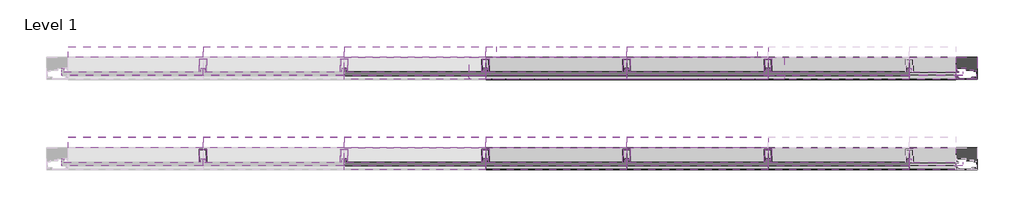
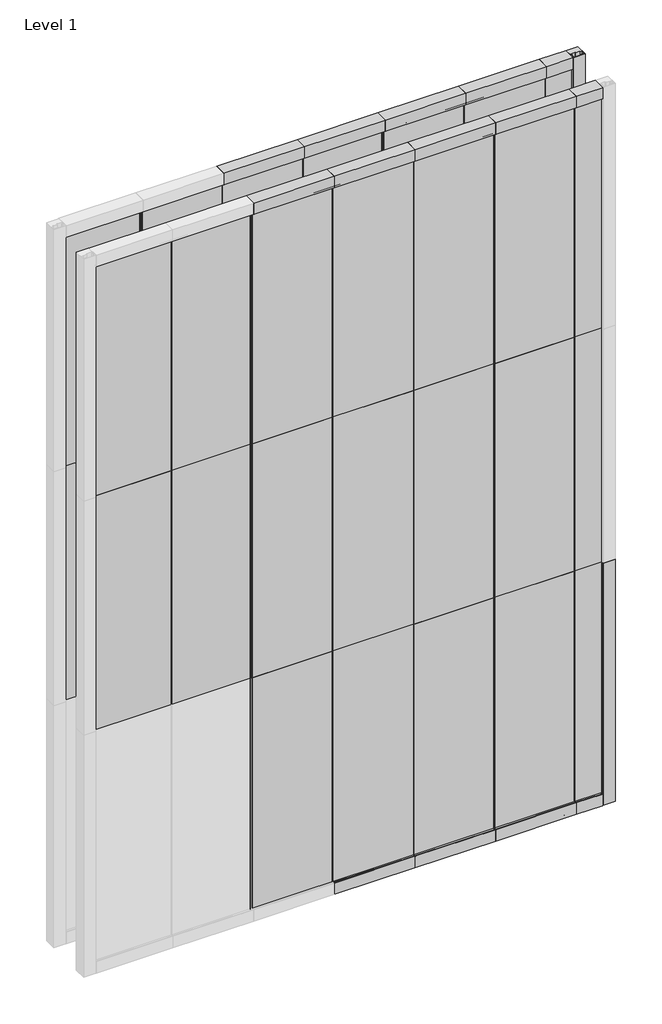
# One storey, part 2 of 3: 69 members, 37 plates.
"""IFC4 building model written with IfcOpenShell, lengths in millimetres."""

from ifc_helpers import new_model, si_unit, origin, place, context, project, spatial, transform, mapped, element, save
from components import rectangular_mullion_8ffd4793, rectangular_mullion_a341a077, rectangular_mullion_ef4c3dbc, rectangular_mullion_38807b77, rectangular_mullion_2cd8be2a, rectangular_mullion_7fd34434, rectangular_mullion_d35b6d32, rectangular_mullion_bc71cb79, rectangular_mullion_41eb730e, rectangular_mullion_794c11a0, plate_8215ef0c, plate_e771e062, plate_520ca2cf, plate_cfd131bb

model = new_model("IFC4")

# Units and contexts
model_context = context("Model", 3, world=origin())
ifc_project = project(units=[si_unit("LENGTHUNIT", "METRE", prefix="MILLI")], contexts=[model_context])

# Site, building, storey
site = spatial("IfcSite", under=ifc_project)
building = spatial("IfcBuilding", under=site)
storey = spatial("IfcBuildingStorey", under=building, Name="Level 1", Elevation=0.0)

# Members
placement = place(None, origin())
rectangular_mullion_shape = rectangular_mullion_8ffd4793(model_context)
element("IfcMember", 1, ObjectType="Rectangular Mullion : Danpal_NM_InetrnalV-Mullion", at=placement, inside=storey, context=model_context, shape_type="MappedRepresentation", body=[
    mapped(rectangular_mullion_shape, transform((2414.9454106, 2937.5512666, 81.8779002), x_axis=(1.0, 0.0, 0.0), y_axis=(0.0, -1.0, 0.0), z_axis=(0.0, 0.0, -1.0))),
])
element("IfcMember", 2, ObjectType="Rectangular Mullion : Danpal_NM_InetrnalV-Mullion", at=placement, inside=storey, context=model_context, shape_type="MappedRepresentation", body=[
    mapped(rectangular_mullion_shape, transform((2946.1454106, 2937.5512666, 81.8779002), x_axis=(1.0, 0.0, 0.0), y_axis=(0.0, -1.0, 0.0), z_axis=(0.0, 0.0, -1.0))),
])
element("IfcMember", 3, ObjectType="Rectangular Mullion : Danpal_NM_InetrnalV-Mullion", at=placement, inside=storey, context=model_context, shape_type="MappedRepresentation", body=[
    mapped(rectangular_mullion_shape, transform((3477.3454106, 2937.5512666, 81.8779002), x_axis=(1.0, 0.0, 0.0), y_axis=(0.0, -1.0, 0.0), z_axis=(0.0, 0.0, -1.0))),
])
element("IfcMember", 4, ObjectType="Rectangular Mullion : Danpal_NM_InetrnalV-Mullion", at=placement, inside=storey, context=model_context, shape_type="MappedRepresentation", body=[
    mapped(rectangular_mullion_shape, transform((4008.5454106, 2937.5512666, 81.8779002), x_axis=(1.0, 0.0, 0.0), y_axis=(0.0, -1.0, 0.0), z_axis=(0.0, 0.0, -1.0))),
])
element("IfcMember", 5, ObjectType="Rectangular Mullion : Danpal_NM_InetrnalV-Mullion", at=placement, inside=storey, context=model_context, shape_type="MappedRepresentation", body=[
    mapped(rectangular_mullion_shape, transform((2414.9454106, 2597.5512666, 81.8779002), x_axis=(1.0, 0.0, 0.0), y_axis=(0.0, -1.0, 0.0), z_axis=(0.0, 0.0, -1.0))),
])
element("IfcMember", 6, ObjectType="Rectangular Mullion : Danpal_NM_InetrnalV-Mullion", at=placement, inside=storey, context=model_context, shape_type="MappedRepresentation", body=[
    mapped(rectangular_mullion_shape, transform((2946.1454106, 2597.5512666, 81.8779002), x_axis=(1.0, 0.0, 0.0), y_axis=(0.0, -1.0, 0.0), z_axis=(0.0, 0.0, -1.0))),
])
element("IfcMember", 7, ObjectType="Rectangular Mullion : Danpal_NM_InetrnalV-Mullion", at=placement, inside=storey, context=model_context, shape_type="MappedRepresentation", body=[
    mapped(rectangular_mullion_shape, transform((3477.3454106, 2597.5512666, 81.8779002), x_axis=(1.0, 0.0, 0.0), y_axis=(0.0, -1.0, 0.0), z_axis=(0.0, 0.0, -1.0))),
])
element("IfcMember", 8, ObjectType="Rectangular Mullion : Danpal_NM_InetrnalV-Mullion", at=placement, inside=storey, context=model_context, shape_type="MappedRepresentation", body=[
    mapped(rectangular_mullion_shape, transform((4008.5454106, 2597.5512666, 81.8779002), x_axis=(1.0, 0.0, 0.0), y_axis=(0.0, -1.0, 0.0), z_axis=(0.0, 0.0, -1.0))),
])
element("IfcMember", 9, ObjectType="Rectangular Mullion : Danpal_NM_InetrnalV-Mullion", at=placement, inside=storey, context=model_context, shape_type="MappedRepresentation", body=[
    mapped(rectangular_mullion_shape, transform((1352.5454106, 2597.5512666, 81.8779002), x_axis=(1.0, 0.0, 0.0), y_axis=(0.0, -1.0, 0.0), z_axis=(0.0, 0.0, -1.0))),
])
rectangular_mullion_2_shape = rectangular_mullion_a341a077(model_context)
element("IfcMember", 10, ObjectType="Rectangular Mullion : Danpal_NM_End-Mullion_B2", at=placement, inside=storey, context=model_context, shape_type="MappedRepresentation", body=[
    mapped(rectangular_mullion_2_shape, transform((4264.2822678, 2937.5512666, 0.0), x_axis=(1.0, 0.0, 0.0), y_axis=(0.0, -1.0, 0.0), z_axis=(0.0, 0.0, -1.0))),
])
element("IfcMember", 11, ObjectType="Rectangular Mullion : Danpal_NM_End-Mullion_B2", at=placement, inside=storey, context=model_context, shape_type="MappedRepresentation", body=[
    mapped(rectangular_mullion_2_shape, transform((4264.2822678, 2597.5512666, 0.0), x_axis=(1.0, 0.0, 0.0), y_axis=(0.0, -1.0, 0.0), z_axis=(0.0, 0.0, -1.0))),
])
rectangular_mullion_3_shape = rectangular_mullion_ef4c3dbc(model_context)
element("IfcMember", 12, ObjectType="Rectangular Mullion : Danpal_NM_End-Mullion_B2", at=placement, inside=storey, context=model_context, shape_type="MappedRepresentation", body=[
    mapped(rectangular_mullion_3_shape, transform((4264.2822678, 2937.5512666, 3315.1583168), x_axis=(1.0, 0.0, 0.0), y_axis=(0.0, -1.0, 0.0), z_axis=(0.0, 0.0, -1.0))),
])
rectangular_mullion_4_shape = rectangular_mullion_38807b77(model_context)
element("IfcMember", 13, ObjectType="Rectangular Mullion : Danpal_NM_InetrnalV-Mullion", at=placement, inside=storey, context=model_context, shape_type="MappedRepresentation", body=[
    mapped(rectangular_mullion_4_shape, transform((2414.9454106, 2937.5512666, 3315.1583168), x_axis=(1.0, 0.0, 0.0), y_axis=(0.0, -1.0, 0.0), z_axis=(0.0, 0.0, -1.0))),
])
element("IfcMember", 14, ObjectType="Rectangular Mullion : Danpal_NM_InetrnalV-Mullion", at=placement, inside=storey, context=model_context, shape_type="MappedRepresentation", body=[
    mapped(rectangular_mullion_4_shape, transform((2946.1454106, 2937.5512666, 3315.1583168), x_axis=(1.0, 0.0, 0.0), y_axis=(0.0, -1.0, 0.0), z_axis=(0.0, 0.0, -1.0))),
])
element("IfcMember", 15, ObjectType="Rectangular Mullion : Danpal_NM_InetrnalV-Mullion", at=placement, inside=storey, context=model_context, shape_type="MappedRepresentation", body=[
    mapped(rectangular_mullion_4_shape, transform((3477.3454106, 2937.5512666, 3315.1583168), x_axis=(1.0, 0.0, 0.0), y_axis=(0.0, -1.0, 0.0), z_axis=(0.0, 0.0, -1.0))),
])
element("IfcMember", 16, ObjectType="Rectangular Mullion : Danpal_NM_InetrnalV-Mullion", at=placement, inside=storey, context=model_context, shape_type="MappedRepresentation", body=[
    mapped(rectangular_mullion_4_shape, transform((1883.7454106, 2937.5512666, 3315.1583168), x_axis=(1.0, 0.0, 0.0), y_axis=(0.0, -1.0, 0.0), z_axis=(0.0, 0.0, -1.0))),
])
element("IfcMember", 17, ObjectType="Rectangular Mullion : Danpal_NM_InetrnalV-Mullion", at=placement, inside=storey, context=model_context, shape_type="MappedRepresentation", body=[
    mapped(rectangular_mullion_4_shape, transform((1352.5454106, 2937.5512666, 3315.1583168), x_axis=(1.0, 0.0, 0.0), y_axis=(0.0, -1.0, 0.0), z_axis=(0.0, 0.0, -1.0))),
])
element("IfcMember", 18, ObjectType="Rectangular Mullion : Danpal_NM_InetrnalV-Mullion", at=placement, inside=storey, context=model_context, shape_type="MappedRepresentation", body=[
    mapped(rectangular_mullion_4_shape, transform((2414.9454106, 2597.5512666, 3315.1583168), x_axis=(1.0, 0.0, 0.0), y_axis=(0.0, -1.0, 0.0), z_axis=(0.0, 0.0, -1.0))),
])
element("IfcMember", 19, ObjectType="Rectangular Mullion : Danpal_NM_InetrnalV-Mullion", at=placement, inside=storey, context=model_context, shape_type="MappedRepresentation", body=[
    mapped(rectangular_mullion_4_shape, transform((2946.1454106, 2597.5512666, 3315.1583168), x_axis=(1.0, 0.0, 0.0), y_axis=(0.0, -1.0, 0.0), z_axis=(0.0, 0.0, -1.0))),
])
element("IfcMember", 20, ObjectType="Rectangular Mullion : Danpal_NM_InetrnalV-Mullion", at=placement, inside=storey, context=model_context, shape_type="MappedRepresentation", body=[
    mapped(rectangular_mullion_4_shape, transform((3477.3454106, 2597.5512666, 3315.1583168), x_axis=(1.0, 0.0, 0.0), y_axis=(0.0, -1.0, 0.0), z_axis=(0.0, 0.0, -1.0))),
])
element("IfcMember", 21, ObjectType="Rectangular Mullion : Danpal_NM_InetrnalV-Mullion", at=placement, inside=storey, context=model_context, shape_type="MappedRepresentation", body=[
    mapped(rectangular_mullion_4_shape, transform((1883.7454106, 2597.5512666, 3315.1583168), x_axis=(1.0, 0.0, 0.0), y_axis=(0.0, -1.0, 0.0), z_axis=(0.0, 0.0, -1.0))),
])
element("IfcMember", 22, ObjectType="Rectangular Mullion : Danpal_NM_InetrnalV-Mullion", at=placement, inside=storey, context=model_context, shape_type="MappedRepresentation", body=[
    mapped(rectangular_mullion_4_shape, transform((1352.5454106, 2597.5512666, 3315.1583168), x_axis=(1.0, 0.0, 0.0), y_axis=(0.0, -1.0, 0.0), z_axis=(0.0, 0.0, -1.0))),
])
rectangular_mullion_5_shape = rectangular_mullion_2cd8be2a(model_context)
element("IfcMember", 23, ObjectType="Rectangular Mullion : Danpal_NM_InetrnalV-Mullion", at=placement, inside=storey, context=model_context, shape_type="MappedRepresentation", body=[
    mapped(rectangular_mullion_5_shape, transform((4008.5454106, 2937.5512666, 1686.1107298), x_axis=(1.0, 0.0, 0.0), y_axis=(0.0, -1.0, 0.0), z_axis=(0.0, 0.0, -1.0))),
])
element("IfcMember", 24, ObjectType="Rectangular Mullion : Danpal_NM_InetrnalV-Mullion", at=placement, inside=storey, context=model_context, shape_type="MappedRepresentation", body=[
    mapped(rectangular_mullion_5_shape, transform((1883.7454106, 2937.5512666, 1686.1107298), x_axis=(1.0, 0.0, 0.0), y_axis=(0.0, -1.0, 0.0), z_axis=(0.0, 0.0, -1.0))),
])
element("IfcMember", 25, ObjectType="Rectangular Mullion : Danpal_NM_InetrnalV-Mullion", at=placement, inside=storey, context=model_context, shape_type="MappedRepresentation", body=[
    mapped(rectangular_mullion_5_shape, transform((1352.5454106, 2937.5512666, 1686.1107298), x_axis=(1.0, 0.0, 0.0), y_axis=(0.0, -1.0, 0.0), z_axis=(0.0, 0.0, -1.0))),
])
element("IfcMember", 26, ObjectType="Rectangular Mullion : Danpal_NM_InetrnalV-Mullion", at=placement, inside=storey, context=model_context, shape_type="MappedRepresentation", body=[
    mapped(rectangular_mullion_5_shape, transform((2414.9454106, 2597.5512666, 1686.1107298), x_axis=(1.0, 0.0, 0.0), y_axis=(0.0, -1.0, 0.0), z_axis=(0.0, 0.0, -1.0))),
])
element("IfcMember", 27, ObjectType="Rectangular Mullion : Danpal_NM_InetrnalV-Mullion", at=placement, inside=storey, context=model_context, shape_type="MappedRepresentation", body=[
    mapped(rectangular_mullion_5_shape, transform((2946.1454106, 2597.5512666, 1686.1107298), x_axis=(1.0, 0.0, 0.0), y_axis=(0.0, -1.0, 0.0), z_axis=(0.0, 0.0, -1.0))),
])
element("IfcMember", 28, ObjectType="Rectangular Mullion : Danpal_NM_InetrnalV-Mullion", at=placement, inside=storey, context=model_context, shape_type="MappedRepresentation", body=[
    mapped(rectangular_mullion_5_shape, transform((3477.3454106, 2597.5512666, 1686.1107298), x_axis=(1.0, 0.0, 0.0), y_axis=(0.0, -1.0, 0.0), z_axis=(0.0, 0.0, -1.0))),
])
element("IfcMember", 29, ObjectType="Rectangular Mullion : Danpal_NM_InetrnalV-Mullion", at=placement, inside=storey, context=model_context, shape_type="MappedRepresentation", body=[
    mapped(rectangular_mullion_5_shape, transform((1883.7454106, 2597.5512666, 1686.1107298), x_axis=(1.0, 0.0, 0.0), y_axis=(0.0, -1.0, 0.0), z_axis=(0.0, 0.0, -1.0))),
])
element("IfcMember", 30, ObjectType="Rectangular Mullion : Danpal_NM_InetrnalV-Mullion", at=placement, inside=storey, context=model_context, shape_type="MappedRepresentation", body=[
    mapped(rectangular_mullion_5_shape, transform((1352.5454106, 2597.5512666, 1686.1107298), x_axis=(1.0, 0.0, 0.0), y_axis=(0.0, -1.0, 0.0), z_axis=(0.0, 0.0, -1.0))),
])
rectangular_mullion_6_shape = rectangular_mullion_7fd34434(model_context)
element("IfcMember", 31, ObjectType="Rectangular Mullion : Danpal_NM_End-Mullion_B2", at=placement, inside=storey, context=model_context, shape_type="MappedRepresentation", body=[
    mapped(rectangular_mullion_6_shape, transform((4264.2822678, 2937.5512666, 1686.1107298), x_axis=(1.0, 0.0, 0.0), y_axis=(0.0, -1.0, 0.0), z_axis=(0.0, 0.0, -1.0))),
])
rectangular_mullion_7_shape = rectangular_mullion_d35b6d32(model_context)
element("IfcMember", 32, ObjectType="Rectangular Mullion : Danpal_NM_End-Mullion_B2", at=placement, inside=storey, context=model_context, shape_type="MappedRepresentation", body=[
    mapped(rectangular_mullion_7_shape, transform((2414.9454106, 2937.5512666, 5000.0), x_axis=(0.0, 0.0, 1.0), y_axis=(0.0, -1.0, 0.0), z_axis=(1.0, 0.0, 0.0))),
])
element("IfcMember", 33, ObjectType="Rectangular Mullion : Danpal_NM_End-Mullion_B2", at=placement, inside=storey, context=model_context, shape_type="MappedRepresentation", body=[
    mapped(rectangular_mullion_7_shape, transform((2946.1454106, 2937.5512666, 5000.0), x_axis=(0.0, 0.0, 1.0), y_axis=(0.0, -1.0, 0.0), z_axis=(1.0, 0.0, 0.0))),
])
element("IfcMember", 34, ObjectType="Rectangular Mullion : Danpal_NM_End-Mullion_B2", at=placement, inside=storey, context=model_context, shape_type="MappedRepresentation", body=[
    mapped(rectangular_mullion_7_shape, transform((3477.3454106, 2937.5512666, 5000.0), x_axis=(0.0, 0.0, 1.0), y_axis=(0.0, -1.0, 0.0), z_axis=(1.0, 0.0, 0.0))),
])
element("IfcMember", 35, ObjectType="Rectangular Mullion : Danpal_NM_End-Mullion_B2", at=placement, inside=storey, context=model_context, shape_type="MappedRepresentation", body=[
    mapped(rectangular_mullion_7_shape, transform((4008.5454106, 2937.5512666, 5000.0), x_axis=(0.0, 0.0, 1.0), y_axis=(0.0, -1.0, 0.0), z_axis=(1.0, 0.0, 0.0))),
])
element("IfcMember", 36, ObjectType="Rectangular Mullion : Danpal_NM_End-Mullion_B2", at=placement, inside=storey, context=model_context, shape_type="MappedRepresentation", body=[
    mapped(rectangular_mullion_7_shape, transform((2414.9454106, 2597.5512666, 5000.0), x_axis=(0.0, 0.0, 1.0), y_axis=(0.0, -1.0, 0.0), z_axis=(1.0, 0.0, 0.0))),
])
element("IfcMember", 37, ObjectType="Rectangular Mullion : Danpal_NM_End-Mullion_B2", at=placement, inside=storey, context=model_context, shape_type="MappedRepresentation", body=[
    mapped(rectangular_mullion_7_shape, transform((2946.1454106, 2597.5512666, 5000.0), x_axis=(0.0, 0.0, 1.0), y_axis=(0.0, -1.0, 0.0), z_axis=(1.0, 0.0, 0.0))),
])
element("IfcMember", 38, ObjectType="Rectangular Mullion : Danpal_NM_End-Mullion_B2", at=placement, inside=storey, context=model_context, shape_type="MappedRepresentation", body=[
    mapped(rectangular_mullion_7_shape, transform((3477.3454106, 2597.5512666, 5000.0), x_axis=(0.0, 0.0, 1.0), y_axis=(0.0, -1.0, 0.0), z_axis=(1.0, 0.0, 0.0))),
])
element("IfcMember", 39, ObjectType="Rectangular Mullion : Danpal_NM_End-Mullion_B2", at=placement, inside=storey, context=model_context, shape_type="MappedRepresentation", body=[
    mapped(rectangular_mullion_7_shape, transform((4008.5454106, 2597.5512666, 5000.0), x_axis=(0.0, 0.0, 1.0), y_axis=(0.0, -1.0, 0.0), z_axis=(1.0, 0.0, 0.0))),
])
element("IfcMember", 40, ObjectType="Rectangular Mullion : Danpal_NM_End-Mullion_B1", at=placement, inside=storey, context=model_context, shape_type="MappedRepresentation", body=[
    mapped(rectangular_mullion_7_shape, transform((2414.9454106, 2937.5512666, 0.0), x_axis=(0.0, 0.0, -1.0), y_axis=(0.0, -1.0, 0.0), z_axis=(-1.0, 0.0, 0.0))),
])
element("IfcMember", 41, ObjectType="Rectangular Mullion : Danpal_NM_End-Mullion_B1", at=placement, inside=storey, context=model_context, shape_type="MappedRepresentation", body=[
    mapped(rectangular_mullion_7_shape, transform((2946.1454106, 2937.5512666, 0.0), x_axis=(0.0, 0.0, -1.0), y_axis=(0.0, -1.0, 0.0), z_axis=(-1.0, 0.0, 0.0))),
])
element("IfcMember", 42, ObjectType="Rectangular Mullion : Danpal_NM_End-Mullion_B1", at=placement, inside=storey, context=model_context, shape_type="MappedRepresentation", body=[
    mapped(rectangular_mullion_7_shape, transform((3477.3454106, 2937.5512666, 0.0), x_axis=(0.0, 0.0, -1.0), y_axis=(0.0, -1.0, 0.0), z_axis=(-1.0, 0.0, 0.0))),
])
element("IfcMember", 43, ObjectType="Rectangular Mullion : Danpal_NM_End-Mullion_B1", at=placement, inside=storey, context=model_context, shape_type="MappedRepresentation", body=[
    mapped(rectangular_mullion_7_shape, transform((2414.9454106, 2597.5512666, 0.0), x_axis=(0.0, 0.0, -1.0), y_axis=(0.0, -1.0, 0.0), z_axis=(-1.0, 0.0, 0.0))),
])
element("IfcMember", 44, ObjectType="Rectangular Mullion : Danpal_NM_End-Mullion_B1", at=placement, inside=storey, context=model_context, shape_type="MappedRepresentation", body=[
    mapped(rectangular_mullion_7_shape, transform((2946.1454106, 2597.5512666, 0.0), x_axis=(0.0, 0.0, -1.0), y_axis=(0.0, -1.0, 0.0), z_axis=(-1.0, 0.0, 0.0))),
])
element("IfcMember", 45, ObjectType="Rectangular Mullion : Danpal_NM_End-Mullion_B1", at=placement, inside=storey, context=model_context, shape_type="MappedRepresentation", body=[
    mapped(rectangular_mullion_7_shape, transform((3477.3454106, 2597.5512666, 0.0), x_axis=(0.0, 0.0, -1.0), y_axis=(0.0, -1.0, 0.0), z_axis=(-1.0, 0.0, 0.0))),
])
rectangular_mullion_8_shape = rectangular_mullion_bc71cb79(model_context)
element("IfcMember", 46, ObjectType="Rectangular Mullion : Danpal_NM_End-Mullion_B2", at=placement, inside=storey, context=model_context, shape_type="MappedRepresentation", body=[
    mapped(rectangular_mullion_8_shape, transform((4182.4043676, 2597.5512666, 5000.0), x_axis=(0.0, 0.0, 1.0), y_axis=(0.0, -1.0, 0.0), z_axis=(1.0, 0.0, 0.0))),
])
element("IfcMember", 47, ObjectType="Rectangular Mullion : Danpal_NM_End-Mullion_B2", at=placement, inside=storey, context=model_context, shape_type="MappedRepresentation", body=[
    mapped(rectangular_mullion_8_shape, transform((4182.4043676, 2937.5512666, 5000.0), x_axis=(0.0, 0.0, 1.0), y_axis=(0.0, -1.0, 0.0), z_axis=(1.0, 0.0, 0.0))),
])
element("IfcMember", 48, ObjectType="Rectangular Mullion : Danpal_NM_End-Mullion_B1", at=placement, inside=storey, context=model_context, shape_type="MappedRepresentation", body=[
    mapped(rectangular_mullion_8_shape, transform((4008.5454106, 2597.5512666, 0.0), x_axis=(0.0, 0.0, -1.0), y_axis=(0.0, -1.0, 0.0), z_axis=(-1.0, 0.0, 0.0))),
])
element("IfcMember", 49, ObjectType="Rectangular Mullion : Danpal_NM_End-Mullion_B1", at=placement, inside=storey, context=model_context, shape_type="MappedRepresentation", body=[
    mapped(rectangular_mullion_8_shape, transform((4008.5454106, 2937.5512666, 0.0), x_axis=(0.0, 0.0, -1.0), y_axis=(0.0, -1.0, 0.0), z_axis=(-1.0, 0.0, 0.0))),
])
rectangular_mullion_9_shape = rectangular_mullion_41eb730e(model_context)
element("IfcMember", 50, ObjectType="Rectangular Mullion : Danpal_NM_MiddleH-Mullion", at=placement, inside=storey, context=model_context, shape_type="MappedRepresentation", body=[
    mapped(rectangular_mullion_9_shape, transform((1883.7454106, 2937.5512666, 1686.1107298), x_axis=(0.0, 0.0, 1.0), y_axis=(0.0, -1.0, 0.0), z_axis=(1.0, 0.0, 0.0))),
])
element("IfcMember", 51, ObjectType="Rectangular Mullion : Danpal_NM_MiddleH-Mullion", at=placement, inside=storey, context=model_context, shape_type="MappedRepresentation", body=[
    mapped(rectangular_mullion_9_shape, transform((2414.9454106, 2937.5512666, 1686.1107298), x_axis=(0.0, 0.0, 1.0), y_axis=(0.0, -1.0, 0.0), z_axis=(1.0, 0.0, 0.0))),
])
element("IfcMember", 52, ObjectType="Rectangular Mullion : Danpal_NM_MiddleH-Mullion", at=placement, inside=storey, context=model_context, shape_type="MappedRepresentation", body=[
    mapped(rectangular_mullion_9_shape, transform((2946.1454106, 2937.5512666, 1686.1107298), x_axis=(0.0, 0.0, 1.0), y_axis=(0.0, -1.0, 0.0), z_axis=(1.0, 0.0, 0.0))),
])
element("IfcMember", 53, ObjectType="Rectangular Mullion : Danpal_NM_MiddleH-Mullion", at=placement, inside=storey, context=model_context, shape_type="MappedRepresentation", body=[
    mapped(rectangular_mullion_9_shape, transform((3477.3454106, 2937.5512666, 1686.1107298), x_axis=(0.0, 0.0, 1.0), y_axis=(0.0, -1.0, 0.0), z_axis=(1.0, 0.0, 0.0))),
])
element("IfcMember", 54, ObjectType="Rectangular Mullion : Danpal_NM_MiddleH-Mullion", at=placement, inside=storey, context=model_context, shape_type="MappedRepresentation", body=[
    mapped(rectangular_mullion_9_shape, transform((1883.7454106, 2937.5512666, 3315.1583168), x_axis=(0.0, 0.0, 1.0), y_axis=(0.0, -1.0, 0.0), z_axis=(1.0, 0.0, 0.0))),
])
element("IfcMember", 55, ObjectType="Rectangular Mullion : Danpal_NM_MiddleH-Mullion", at=placement, inside=storey, context=model_context, shape_type="MappedRepresentation", body=[
    mapped(rectangular_mullion_9_shape, transform((2414.9454106, 2937.5512666, 3315.1583168), x_axis=(0.0, 0.0, 1.0), y_axis=(0.0, -1.0, 0.0), z_axis=(1.0, 0.0, 0.0))),
])
element("IfcMember", 56, ObjectType="Rectangular Mullion : Danpal_NM_MiddleH-Mullion", at=placement, inside=storey, context=model_context, shape_type="MappedRepresentation", body=[
    mapped(rectangular_mullion_9_shape, transform((2946.1454106, 2937.5512666, 3315.1583168), x_axis=(0.0, 0.0, 1.0), y_axis=(0.0, -1.0, 0.0), z_axis=(1.0, 0.0, 0.0))),
])
element("IfcMember", 57, ObjectType="Rectangular Mullion : Danpal_NM_MiddleH-Mullion", at=placement, inside=storey, context=model_context, shape_type="MappedRepresentation", body=[
    mapped(rectangular_mullion_9_shape, transform((3477.3454106, 2937.5512666, 3315.1583168), x_axis=(0.0, 0.0, 1.0), y_axis=(0.0, -1.0, 0.0), z_axis=(1.0, 0.0, 0.0))),
])
element("IfcMember", 58, ObjectType="Rectangular Mullion : Danpal_NM_MiddleH-Mullion", at=placement, inside=storey, context=model_context, shape_type="MappedRepresentation", body=[
    mapped(rectangular_mullion_9_shape, transform((1883.7454106, 2597.5512666, 1686.1107298), x_axis=(0.0, 0.0, 1.0), y_axis=(0.0, -1.0, 0.0), z_axis=(1.0, 0.0, 0.0))),
])
element("IfcMember", 59, ObjectType="Rectangular Mullion : Danpal_NM_MiddleH-Mullion", at=placement, inside=storey, context=model_context, shape_type="MappedRepresentation", body=[
    mapped(rectangular_mullion_9_shape, transform((2414.9454106, 2597.5512666, 1686.1107298), x_axis=(0.0, 0.0, 1.0), y_axis=(0.0, -1.0, 0.0), z_axis=(1.0, 0.0, 0.0))),
])
element("IfcMember", 60, ObjectType="Rectangular Mullion : Danpal_NM_MiddleH-Mullion", at=placement, inside=storey, context=model_context, shape_type="MappedRepresentation", body=[
    mapped(rectangular_mullion_9_shape, transform((2946.1454106, 2597.5512666, 1686.1107298), x_axis=(0.0, 0.0, 1.0), y_axis=(0.0, -1.0, 0.0), z_axis=(1.0, 0.0, 0.0))),
])
element("IfcMember", 61, ObjectType="Rectangular Mullion : Danpal_NM_MiddleH-Mullion", at=placement, inside=storey, context=model_context, shape_type="MappedRepresentation", body=[
    mapped(rectangular_mullion_9_shape, transform((3477.3454106, 2597.5512666, 1686.1107298), x_axis=(0.0, 0.0, 1.0), y_axis=(0.0, -1.0, 0.0), z_axis=(1.0, 0.0, 0.0))),
])
element("IfcMember", 62, ObjectType="Rectangular Mullion : Danpal_NM_MiddleH-Mullion", at=placement, inside=storey, context=model_context, shape_type="MappedRepresentation", body=[
    mapped(rectangular_mullion_9_shape, transform((1883.7454106, 2597.5512666, 3315.1583168), x_axis=(0.0, 0.0, 1.0), y_axis=(0.0, -1.0, 0.0), z_axis=(1.0, 0.0, 0.0))),
])
element("IfcMember", 63, ObjectType="Rectangular Mullion : Danpal_NM_MiddleH-Mullion", at=placement, inside=storey, context=model_context, shape_type="MappedRepresentation", body=[
    mapped(rectangular_mullion_9_shape, transform((2414.9454106, 2597.5512666, 3315.1583168), x_axis=(0.0, 0.0, 1.0), y_axis=(0.0, -1.0, 0.0), z_axis=(1.0, 0.0, 0.0))),
])
element("IfcMember", 64, ObjectType="Rectangular Mullion : Danpal_NM_MiddleH-Mullion", at=placement, inside=storey, context=model_context, shape_type="MappedRepresentation", body=[
    mapped(rectangular_mullion_9_shape, transform((2946.1454106, 2597.5512666, 3315.1583168), x_axis=(0.0, 0.0, 1.0), y_axis=(0.0, -1.0, 0.0), z_axis=(1.0, 0.0, 0.0))),
])
element("IfcMember", 65, ObjectType="Rectangular Mullion : Danpal_NM_MiddleH-Mullion", at=placement, inside=storey, context=model_context, shape_type="MappedRepresentation", body=[
    mapped(rectangular_mullion_9_shape, transform((3477.3454106, 2597.5512666, 3315.1583168), x_axis=(0.0, 0.0, 1.0), y_axis=(0.0, -1.0, 0.0), z_axis=(1.0, 0.0, 0.0))),
])
rectangular_mullion_10_shape = rectangular_mullion_794c11a0(model_context)
element("IfcMember", 66, ObjectType="Rectangular Mullion : Danpal_NM_MiddleH-Mullion", at=placement, inside=storey, context=model_context, shape_type="MappedRepresentation", body=[
    mapped(rectangular_mullion_10_shape, transform((1352.5454106, 2937.5512666, 1686.1107298), x_axis=(0.0, 0.0, 1.0), y_axis=(0.0, -1.0, 0.0), z_axis=(1.0, 0.0, 0.0))),
])
element("IfcMember", 67, ObjectType="Rectangular Mullion : Danpal_NM_MiddleH-Mullion", at=placement, inside=storey, context=model_context, shape_type="MappedRepresentation", body=[
    mapped(rectangular_mullion_10_shape, transform((1352.5454106, 2937.5512666, 3315.1583168), x_axis=(0.0, 0.0, 1.0), y_axis=(0.0, -1.0, 0.0), z_axis=(1.0, 0.0, 0.0))),
])
element("IfcMember", 68, ObjectType="Rectangular Mullion : Danpal_NM_MiddleH-Mullion", at=placement, inside=storey, context=model_context, shape_type="MappedRepresentation", body=[
    mapped(rectangular_mullion_10_shape, transform((1352.5454106, 2597.5512666, 1686.1107298), x_axis=(0.0, 0.0, 1.0), y_axis=(0.0, -1.0, 0.0), z_axis=(1.0, 0.0, 0.0))),
])
element("IfcMember", 69, ObjectType="Rectangular Mullion : Danpal_NM_MiddleH-Mullion", at=placement, inside=storey, context=model_context, shape_type="MappedRepresentation", body=[
    mapped(rectangular_mullion_10_shape, transform((1352.5454106, 2597.5512666, 3315.1583168), x_axis=(0.0, 0.0, 1.0), y_axis=(0.0, -1.0, 0.0), z_axis=(1.0, 0.0, 0.0))),
])

# Plates
plate_shape = plate_8215ef0c(model_context)
element("IfcPlate", 70, ObjectType="Walls_Curtain-Walls_Danpal_NM : Walls_Curtain-Walls_Danpal_NM", at=placement, inside=storey, context=model_context, shape_type="MappedRepresentation", body=[
    mapped(plate_shape, transform((2680.5454106, 2597.5512666, 57.0631428), x_axis=(1.0, 0.0, 0.0), y_axis=(0.0, 1.0, 0.0), z_axis=(0.0, 0.0, 1.0))),
])
element("IfcPlate", 71, ObjectType="Walls_Curtain-Walls_Danpal_NM : Walls_Curtain-Walls_Danpal_NM", at=placement, inside=storey, context=model_context, shape_type="MappedRepresentation", body=[
    mapped(plate_shape, transform((3211.7454106, 2597.5512666, 57.0631428), x_axis=(1.0, 0.0, 0.0), y_axis=(0.0, 1.0, 0.0), z_axis=(0.0, 0.0, 1.0))),
])
element("IfcPlate", 72, ObjectType="Walls_Curtain-Walls_Danpal_NM : Walls_Curtain-Walls_Danpal_NM", at=placement, inside=storey, context=model_context, shape_type="MappedRepresentation", body=[
    mapped(plate_shape, transform((3742.9454106, 2597.5512666, 57.0631428), x_axis=(1.0, 0.0, 0.0), y_axis=(0.0, 1.0, 0.0), z_axis=(0.0, 0.0, 1.0))),
])
element("IfcPlate", 73, ObjectType="Walls_Curtain-Walls_Danpal_NM : Walls_Curtain-Walls_Danpal_NM", at=placement, inside=storey, context=model_context, shape_type="MappedRepresentation", body=[
    mapped(plate_shape, transform((2149.3454106, 2937.5512666, 57.0631428), x_axis=(1.0, 0.0, 0.0), y_axis=(0.0, 1.0, 0.0), z_axis=(0.0, 0.0, 1.0))),
])
element("IfcPlate", 74, ObjectType="Walls_Curtain-Walls_Danpal_NM : Walls_Curtain-Walls_Danpal_NM", at=placement, inside=storey, context=model_context, shape_type="MappedRepresentation", body=[
    mapped(plate_shape, transform((2149.3454106, 2597.5512666, 57.0631428), x_axis=(1.0, 0.0, 0.0), y_axis=(0.0, 1.0, 0.0), z_axis=(0.0, 0.0, 1.0))),
])
element("IfcPlate", 75, ObjectType="Walls_Curtain-Walls_Danpal_NM : Walls_Curtain-Walls_Danpal_NM", at=placement, inside=storey, context=model_context, shape_type="MappedRepresentation", body=[
    mapped(plate_shape, transform((3742.9454106, 2937.5512666, 57.0631428), x_axis=(1.0, 0.0, 0.0), y_axis=(0.0, 1.0, 0.0), z_axis=(0.0, 0.0, 1.0))),
])
element("IfcPlate", 76, ObjectType="Walls_Curtain-Walls_Danpal_NM : Walls_Curtain-Walls_Danpal_NM", at=placement, inside=storey, context=model_context, shape_type="MappedRepresentation", body=[
    mapped(plate_shape, transform((1086.9454106, 2937.5512666, 1686.1107298), x_axis=(1.0, 0.0, 0.0), y_axis=(0.0, 1.0, 0.0), z_axis=(0.0, 0.0, 1.0))),
])
element("IfcPlate", 77, ObjectType="Walls_Curtain-Walls_Danpal_NM : Walls_Curtain-Walls_Danpal_NM", at=placement, inside=storey, context=model_context, shape_type="MappedRepresentation", body=[
    mapped(plate_shape, transform((1618.1454106, 2937.5512666, 1686.1107298), x_axis=(1.0, 0.0, 0.0), y_axis=(0.0, 1.0, 0.0), z_axis=(0.0, 0.0, 1.0))),
])
element("IfcPlate", 78, ObjectType="Walls_Curtain-Walls_Danpal_NM : Walls_Curtain-Walls_Danpal_NM", at=placement, inside=storey, context=model_context, shape_type="MappedRepresentation", body=[
    mapped(plate_shape, transform((2149.3454106, 2937.5512666, 1686.1107298), x_axis=(1.0, 0.0, 0.0), y_axis=(0.0, 1.0, 0.0), z_axis=(0.0, 0.0, 1.0))),
])
element("IfcPlate", 79, ObjectType="Walls_Curtain-Walls_Danpal_NM : Walls_Curtain-Walls_Danpal_NM", at=placement, inside=storey, context=model_context, shape_type="MappedRepresentation", body=[
    mapped(plate_shape, transform((3742.9454106, 2937.5512666, 1686.1107298), x_axis=(1.0, 0.0, 0.0), y_axis=(0.0, 1.0, 0.0), z_axis=(0.0, 0.0, 1.0))),
])
element("IfcPlate", 80, ObjectType="Walls_Curtain-Walls_Danpal_NM : Walls_Curtain-Walls_Danpal_NM", at=placement, inside=storey, context=model_context, shape_type="MappedRepresentation", body=[
    mapped(plate_shape, transform((1086.9454106, 2937.5512666, 3315.1583168), x_axis=(1.0, 0.0, 0.0), y_axis=(0.0, 1.0, 0.0), z_axis=(0.0, 0.0, 1.0))),
])
element("IfcPlate", 81, ObjectType="Walls_Curtain-Walls_Danpal_NM : Walls_Curtain-Walls_Danpal_NM", at=placement, inside=storey, context=model_context, shape_type="MappedRepresentation", body=[
    mapped(plate_shape, transform((1618.1454106, 2937.5512666, 3315.1583168), x_axis=(1.0, 0.0, 0.0), y_axis=(0.0, 1.0, 0.0), z_axis=(0.0, 0.0, 1.0))),
])
element("IfcPlate", 82, ObjectType="Walls_Curtain-Walls_Danpal_NM : Walls_Curtain-Walls_Danpal_NM", at=placement, inside=storey, context=model_context, shape_type="MappedRepresentation", body=[
    mapped(plate_shape, transform((2149.3454106, 2937.5512666, 3315.1583168), x_axis=(1.0, 0.0, 0.0), y_axis=(0.0, 1.0, 0.0), z_axis=(0.0, 0.0, 1.0))),
])
element("IfcPlate", 83, ObjectType="Walls_Curtain-Walls_Danpal_NM : Walls_Curtain-Walls_Danpal_NM", at=placement, inside=storey, context=model_context, shape_type="MappedRepresentation", body=[
    mapped(plate_shape, transform((2680.5454106, 2937.5512666, 3315.1583168), x_axis=(1.0, 0.0, 0.0), y_axis=(0.0, 1.0, 0.0), z_axis=(0.0, 0.0, 1.0))),
])
element("IfcPlate", 84, ObjectType="Walls_Curtain-Walls_Danpal_NM : Walls_Curtain-Walls_Danpal_NM", at=placement, inside=storey, context=model_context, shape_type="MappedRepresentation", body=[
    mapped(plate_shape, transform((3211.7454106, 2937.5512666, 3315.1583168), x_axis=(1.0, 0.0, 0.0), y_axis=(0.0, 1.0, 0.0), z_axis=(0.0, 0.0, 1.0))),
])
element("IfcPlate", 85, ObjectType="Walls_Curtain-Walls_Danpal_NM : Walls_Curtain-Walls_Danpal_NM", at=placement, inside=storey, context=model_context, shape_type="MappedRepresentation", body=[
    mapped(plate_shape, transform((3742.9454106, 2937.5512666, 3315.1583168), x_axis=(1.0, 0.0, 0.0), y_axis=(0.0, 1.0, 0.0), z_axis=(0.0, 0.0, 1.0))),
])
element("IfcPlate", 86, ObjectType="Walls_Curtain-Walls_Danpal_NM : Walls_Curtain-Walls_Danpal_NM", at=placement, inside=storey, context=model_context, shape_type="MappedRepresentation", body=[
    mapped(plate_shape, transform((1086.9454106, 2597.5512666, 1686.1107298), x_axis=(1.0, 0.0, 0.0), y_axis=(0.0, 1.0, 0.0), z_axis=(0.0, 0.0, 1.0))),
])
element("IfcPlate", 87, ObjectType="Walls_Curtain-Walls_Danpal_NM : Walls_Curtain-Walls_Danpal_NM", at=placement, inside=storey, context=model_context, shape_type="MappedRepresentation", body=[
    mapped(plate_shape, transform((1618.1454106, 2597.5512666, 1686.1107298), x_axis=(1.0, 0.0, 0.0), y_axis=(0.0, 1.0, 0.0), z_axis=(0.0, 0.0, 1.0))),
])
element("IfcPlate", 88, ObjectType="Walls_Curtain-Walls_Danpal_NM : Walls_Curtain-Walls_Danpal_NM", at=placement, inside=storey, context=model_context, shape_type="MappedRepresentation", body=[
    mapped(plate_shape, transform((2149.3454106, 2597.5512666, 1686.1107298), x_axis=(1.0, 0.0, 0.0), y_axis=(0.0, 1.0, 0.0), z_axis=(0.0, 0.0, 1.0))),
])
element("IfcPlate", 89, ObjectType="Walls_Curtain-Walls_Danpal_NM : Walls_Curtain-Walls_Danpal_NM", at=placement, inside=storey, context=model_context, shape_type="MappedRepresentation", body=[
    mapped(plate_shape, transform((2680.5454106, 2597.5512666, 1686.1107298), x_axis=(1.0, 0.0, 0.0), y_axis=(0.0, 1.0, 0.0), z_axis=(0.0, 0.0, 1.0))),
])
element("IfcPlate", 90, ObjectType="Walls_Curtain-Walls_Danpal_NM : Walls_Curtain-Walls_Danpal_NM", at=placement, inside=storey, context=model_context, shape_type="MappedRepresentation", body=[
    mapped(plate_shape, transform((3211.7454106, 2597.5512666, 1686.1107298), x_axis=(1.0, 0.0, 0.0), y_axis=(0.0, 1.0, 0.0), z_axis=(0.0, 0.0, 1.0))),
])
element("IfcPlate", 91, ObjectType="Walls_Curtain-Walls_Danpal_NM : Walls_Curtain-Walls_Danpal_NM", at=placement, inside=storey, context=model_context, shape_type="MappedRepresentation", body=[
    mapped(plate_shape, transform((3742.9454106, 2597.5512666, 1686.1107298), x_axis=(1.0, 0.0, 0.0), y_axis=(0.0, 1.0, 0.0), z_axis=(0.0, 0.0, 1.0))),
])
element("IfcPlate", 92, ObjectType="Walls_Curtain-Walls_Danpal_NM : Walls_Curtain-Walls_Danpal_NM", at=placement, inside=storey, context=model_context, shape_type="MappedRepresentation", body=[
    mapped(plate_shape, transform((1086.9454106, 2597.5512666, 3315.1583168), x_axis=(1.0, 0.0, 0.0), y_axis=(0.0, 1.0, 0.0), z_axis=(0.0, 0.0, 1.0))),
])
element("IfcPlate", 93, ObjectType="Walls_Curtain-Walls_Danpal_NM : Walls_Curtain-Walls_Danpal_NM", at=placement, inside=storey, context=model_context, shape_type="MappedRepresentation", body=[
    mapped(plate_shape, transform((1618.1454106, 2597.5512666, 3315.1583168), x_axis=(1.0, 0.0, 0.0), y_axis=(0.0, 1.0, 0.0), z_axis=(0.0, 0.0, 1.0))),
])
element("IfcPlate", 94, ObjectType="Walls_Curtain-Walls_Danpal_NM : Walls_Curtain-Walls_Danpal_NM", at=placement, inside=storey, context=model_context, shape_type="MappedRepresentation", body=[
    mapped(plate_shape, transform((2149.3454106, 2597.5512666, 3315.1583168), x_axis=(1.0, 0.0, 0.0), y_axis=(0.0, 1.0, 0.0), z_axis=(0.0, 0.0, 1.0))),
])
element("IfcPlate", 95, ObjectType="Walls_Curtain-Walls_Danpal_NM : Walls_Curtain-Walls_Danpal_NM", at=placement, inside=storey, context=model_context, shape_type="MappedRepresentation", body=[
    mapped(plate_shape, transform((2680.5454106, 2597.5512666, 3315.1583168), x_axis=(1.0, 0.0, 0.0), y_axis=(0.0, 1.0, 0.0), z_axis=(0.0, 0.0, 1.0))),
])
element("IfcPlate", 96, ObjectType="Walls_Curtain-Walls_Danpal_NM : Walls_Curtain-Walls_Danpal_NM", at=placement, inside=storey, context=model_context, shape_type="MappedRepresentation", body=[
    mapped(plate_shape, transform((3211.7454106, 2597.5512666, 3315.1583168), x_axis=(1.0, 0.0, 0.0), y_axis=(0.0, 1.0, 0.0), z_axis=(0.0, 0.0, 1.0))),
])
element("IfcPlate", 97, ObjectType="Walls_Curtain-Walls_Danpal_NM : Walls_Curtain-Walls_Danpal_NM", at=placement, inside=storey, context=model_context, shape_type="MappedRepresentation", body=[
    mapped(plate_shape, transform((3742.9454106, 2597.5512666, 3315.1583168), x_axis=(1.0, 0.0, 0.0), y_axis=(0.0, 1.0, 0.0), z_axis=(0.0, 0.0, 1.0))),
])
plate_2_shape = plate_e771e062(model_context)
element("IfcPlate", 98, ObjectType="Walls_Curtain-Walls_Danpal_NM : Walls_Curtain-Walls_Danpal_NM", at=placement, inside=storey, context=model_context, shape_type="MappedRepresentation", body=[
    mapped(plate_2_shape, transform((4108.5167911, 2937.5512666, 57.0631428), x_axis=(1.0, 0.0, 0.0), y_axis=(0.0, 1.0, 0.0), z_axis=(0.0, 0.0, 1.0))),
])
element("IfcPlate", 99, ObjectType="Walls_Curtain-Walls_Danpal_NM : Walls_Curtain-Walls_Danpal_NM", at=placement, inside=storey, context=model_context, shape_type="MappedRepresentation", body=[
    mapped(plate_2_shape, transform((4108.5167911, 2597.5512666, 57.0631428), x_axis=(1.0, 0.0, 0.0), y_axis=(0.0, 1.0, 0.0), z_axis=(0.0, 0.0, 1.0))),
])
element("IfcPlate", 100, ObjectType="Walls_Curtain-Walls_Danpal_NM : Walls_Curtain-Walls_Danpal_NM", at=placement, inside=storey, context=model_context, shape_type="MappedRepresentation", body=[
    mapped(plate_2_shape, transform((4108.5167911, 2937.5512666, 1686.1107298), x_axis=(1.0, 0.0, 0.0), y_axis=(0.0, 1.0, 0.0), z_axis=(0.0, 0.0, 1.0))),
])
element("IfcPlate", 101, ObjectType="Walls_Curtain-Walls_Danpal_NM : Walls_Curtain-Walls_Danpal_NM", at=placement, inside=storey, context=model_context, shape_type="MappedRepresentation", body=[
    mapped(plate_2_shape, transform((4108.5167911, 2937.5512666, 3315.1583168), x_axis=(1.0, 0.0, 0.0), y_axis=(0.0, 1.0, 0.0), z_axis=(0.0, 0.0, 1.0))),
])
element("IfcPlate", 102, ObjectType="Walls_Curtain-Walls_Danpal_NM : Walls_Curtain-Walls_Danpal_NM", at=placement, inside=storey, context=model_context, shape_type="MappedRepresentation", body=[
    mapped(plate_2_shape, transform((4108.5167911, 2597.5512666, 1686.1107298), x_axis=(1.0, 0.0, 0.0), y_axis=(0.0, 1.0, 0.0), z_axis=(0.0, 0.0, 1.0))),
])
element("IfcPlate", 103, ObjectType="Walls_Curtain-Walls_Danpal_NM : Walls_Curtain-Walls_Danpal_NM", at=placement, inside=storey, context=model_context, shape_type="MappedRepresentation", body=[
    mapped(plate_2_shape, transform((4108.5167911, 2597.5512666, 3315.1583168), x_axis=(1.0, 0.0, 0.0), y_axis=(0.0, 1.0, 0.0), z_axis=(0.0, 0.0, 1.0))),
])
plate_3_shape = plate_520ca2cf(model_context)
element("IfcPlate", 104, ObjectType="Walls_Curtain-Walls_Danpal_NM : Walls_Curtain-Walls_Danpal_NM", at=placement, inside=storey, context=model_context, shape_type="MappedRepresentation", body=[
    mapped(plate_3_shape, transform((2680.5454106, 2937.5512666, 57.0631428), x_axis=(1.0, 0.0, 0.0), y_axis=(0.0, 1.0, 0.0), z_axis=(0.0, 0.0, 1.0))),
])
element("IfcPlate", 105, ObjectType="Walls_Curtain-Walls_Danpal_NM : Walls_Curtain-Walls_Danpal_NM", at=placement, inside=storey, context=model_context, shape_type="MappedRepresentation", body=[
    mapped(plate_3_shape, transform((3211.7454106, 2937.5512666, 57.0631428), x_axis=(1.0, 0.0, 0.0), y_axis=(0.0, 1.0, 0.0), z_axis=(0.0, 0.0, 1.0))),
])
plate_4_shape = plate_cfd131bb(model_context)
element("IfcPlate", 106, ObjectType="Window-Profile-Danpal-NM : Window-Profile-Danpal-NM", at=placement, inside=storey, context=model_context, shape_type="MappedRepresentation", body=[
    mapped(plate_4_shape, transform((2946.1454106, 2937.5512666, 1686.1107298), x_axis=(1.0, 0.0, 0.0), y_axis=(0.0, 1.0, 0.0), z_axis=(0.0, 0.0, 1.0))),
])

save(model, "model.ifc")
